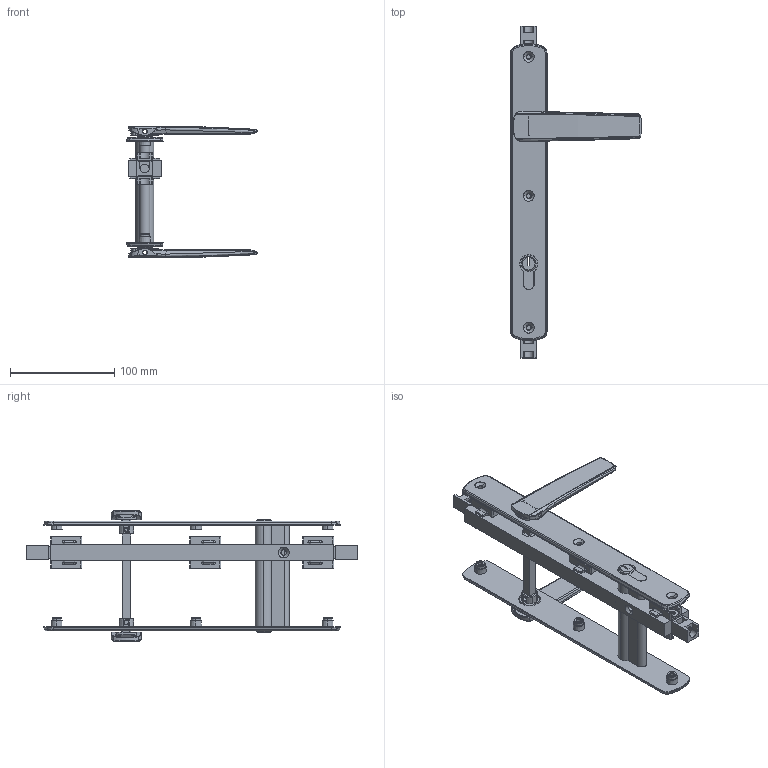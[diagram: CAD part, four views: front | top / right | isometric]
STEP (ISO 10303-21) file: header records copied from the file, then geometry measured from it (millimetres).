
FILE_DESCRIPTION (( 'STEP AP214' ), '1' );
FILE_NAME ('TPL-H-EU-604-B 30Oct2024.STEP', '2024-10-30T03:38:31', ( '' ), ( '' ), 'SwSTEP 2.0', 'SolidWorks 2023', '' );
FILE_SCHEMA (( 'AUTOMOTIVE_DESIGN' ));
Length unit declared in the file: millimetre
Products named in the file (17): Copy of LKC-505 Swing handle zinc - simplified^Copy of TPGen2 handle keyed external zinc - simplified_TPL-H-EU-104 30Oct2024; Copy (2) of TPGen2 handle keyed internal zinc - simplified^TPL-H-EU-104 30Oct2024_Right; Copy of TPLGen2 lock body keyed^Copy (2) of TPLGen2 lock body keyed assembly_TPL-H-EU-104 30Oct2024_Right; Copy of LKC-505 Swing handle zinc - simplified^Copy (2) of TPGen2 handle keyed internal zinc - simplified_TPL-H-EU-104 30Oct2024; Copy of LKC-585 Rotator body zinc^Copy of TPGen2 handle keyed external zinc - simplified_TPL-H-EU-104 30Oct2024; Copy of LKC-512 Escutcheon plate keyed internal 285mm long zinc - simplified^Copy (2) of TPGen2 handle keyed internal zinc - simplified_TPL-H-EU-104 30Oct2024; Copy of LKC-584 Pivot body zinc - simplified^Copy (2) of TPGen2 handle keyed internal zinc - simplified_TPL-H-EU-104 30Oct2024; Copy (2) of TPLGen2 lock body keyed assembly^TPL-H-EU-104 30Oct2024_Bolts retracted - right; Copy of TPGen2 handle keyed external zinc - simplified^TPL-H-EU-104 30Oct2024_Left; Copy of LKC-585 Rotator body zinc^Copy (2) of TPGen2 handle keyed internal zinc - simplified_TPL-H-EU-104 30Oct2024; Copy of LKC-514 Escutcheon plate keyed external 285mm long zinc - simplified^Copy of TPGen2 handle keyed external zinc - simplified_TPL-H-EU-104 30Oct2024; Copy of TPL-H-APC-515 04Oct2024^TPL-H-EU-104 30Oct2024; Copy of TPLGen2 push rod - simplified^Copy (2) of TPLGen2 lock body keyed assembly_TPL-H-EU-104 30Oct2024_Female thread M10; Copy of LKC-584 Pivot body zinc - simplified^Copy of TPGen2 handle keyed external zinc - simplified_TPL-H-EU-104 30Oct2024; TPL-H-EU-604-B 30Oct2024; Copy of TPL-H-EU-006 29Oct2024^TPL-H-EU-104 30Oct2024_TPL-050-105 Right; Copy of LKC-586 Spindle square 8mm with M4 hole^Copy (2) of TPGen2 handle keyed internal zinc - simplified_TPL-H-EU-104 30Oct2024_100mm
Assembly tree (22 placements, depth 3):
  TPL-H-EU-604-B 30Oct2024
    Copy (2) of TPLGen2 lock body keyed assembly^TPL-H-EU-104 30Oct2024_Bolts retracted - right
      Copy of TPLGen2 lock body keyed^Copy (2) of TPLGen2 lock body keyed assembly_TPL-H-EU-104 30Oct2024_Right
      Copy of TPLGen2 push rod - simplified^Copy (2) of TPLGen2 lock body keyed assembly_TPL-H-EU-104 30Oct2024_Female thread M10  x2
    Copy (2) of TPGen2 handle keyed internal zinc - simplified^TPL-H-EU-104 30Oct2024_Right
      Copy of LKC-512 Escutcheon plate keyed internal 285mm long zinc - simplified^Copy (2) of TPGen2 handle keyed internal zinc - simplified_TPL-H-EU-104 30Oct2024
      Copy of LKC-505 Swing handle zinc - simplified^Copy (2) of TPGen2 handle keyed internal zinc - simplified_TPL-H-EU-104 30Oct2024
      Copy of LKC-585 Rotator body zinc^Copy (2) of TPGen2 handle keyed internal zinc - simplified_TPL-H-EU-104 30Oct2024
      Copy of LKC-586 Spindle square 8mm with M4 hole^Copy (2) of TPGen2 handle keyed internal zinc - simplified_TPL-H-EU-104 30Oct2024_100mm
      Copy of LKC-584 Pivot body zinc - simplified^Copy (2) of TPGen2 handle keyed internal zinc - simplified_TPL-H-EU-104 30Oct2024
    Copy of TPGen2 handle keyed external zinc - simplified^TPL-H-EU-104 30Oct2024_Left
      Copy of LKC-514 Escutcheon plate keyed external 285mm long zinc - simplified^Copy of TPGen2 handle keyed external zinc - simplified_TPL-H-EU-104 30Oct2024
      Copy of LKC-505 Swing handle zinc - simplified^Copy of TPGen2 handle keyed external zinc - simplified_TPL-H-EU-104 30Oct2024
      Copy of LKC-585 Rotator body zinc^Copy of TPGen2 handle keyed external zinc - simplified_TPL-H-EU-104 30Oct2024
      Copy of LKC-584 Pivot body zinc - simplified^Copy of TPGen2 handle keyed external zinc - simplified_TPL-H-EU-104 30Oct2024
    Copy of TPL-H-EU-006 29Oct2024^TPL-H-EU-104 30Oct2024_TPL-050-105 Right
    Copy of TPL-H-APC-515 04Oct2024^TPL-H-EU-104 30Oct2024  x6
Bounding box: 125.62 x 318.6 x 125.92 mm (x, y, z)
Volume: 308625.4 mm3; surface area: 136798.5 mm2
Topology: 19 solids, 19 shells, 2042 faces, 4939 edges, 2972 vertices
Faces by surface type: cylinder 624, plane 560, bspline 448, torus 224, cone 128, sphere 58
Entity records: 49034 total; most frequent: CARTESIAN_POINT 22198, ORIENTED_EDGE 5910, DIRECTION 5051, EDGE_CURVE 2955, AXIS2_PLACEMENT_3D 2053, VERTEX_POINT 1772, EDGE_LOOP 1371, FACE_OUTER_BOUND 1252
